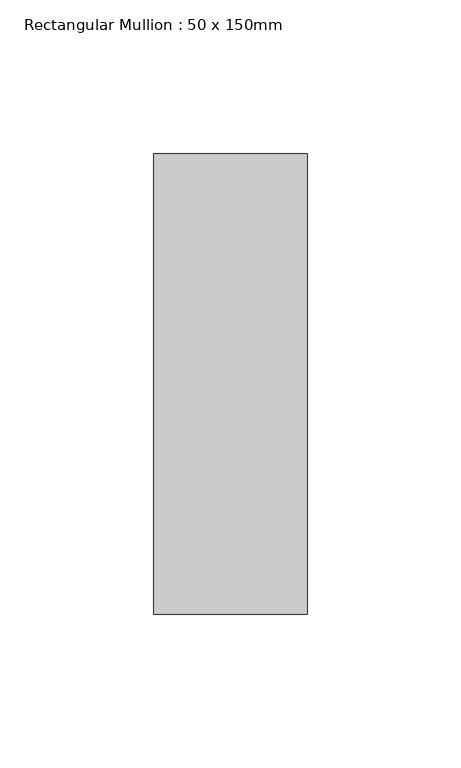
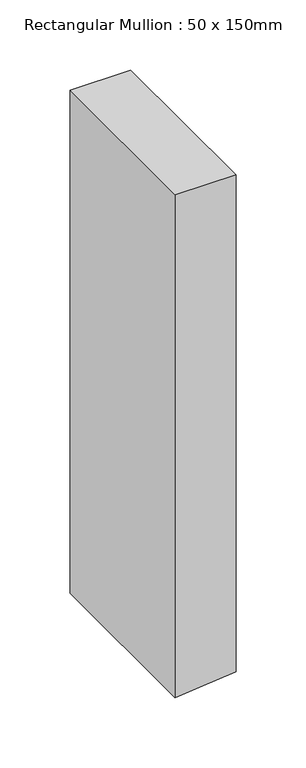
"""IFC4 building model written with IfcOpenShell, lengths in millimetres: member geometry, Rectangular Mullion : 50 x 150mm."""

from ifc_helpers import new_model, si_unit, frame, origin, place, context, project, spatial, polyline, outline, extrude, source, transform, mapped, element, save


def rectangular_mullion_50_x_150mm_2f033bd0(model_context):
    return source(origin(), model_context, "Body", "SweptSolid", [
        extrude(outline(polyline([(0.0, 25.0), (0.0, -25.0), (-437.732568, -25.0), (-435.7218009, -5.0022633), (-432.7050813, 25.0), (0.0, 25.0)])), frame((0.0, -75.0, 0.0), z_axis=(0.0, 1.0, 0.0), x_axis=(0.0, 0.0, 1.0)), (0.0, 0.0, 1.0), 150.0),
    ])


if __name__ == "__main__":
    model = new_model("IFC4")
    model_context = context("Model", 3, world=origin())
    ifc_project = project(units=[si_unit("LENGTHUNIT", "METRE", prefix="MILLI")], contexts=[model_context])
    site = spatial("IfcSite", under=ifc_project)
    building = spatial("IfcBuilding", under=site)
    placement = place(None, origin())
    rectangular_mullion_50_x_150mm_shape = rectangular_mullion_50_x_150mm_2f033bd0(model_context)
    element("IfcMember", 1, ObjectType="Rectangular Mullion : 50 x 150mm", at=placement, inside=building, context=model_context, shape_type="MappedRepresentation", body=[
        mapped(rectangular_mullion_50_x_150mm_shape, transform((0.0, 0.0, 0.0), x_axis=(1.0, 0.0, 0.0), y_axis=(0.0, 1.0, 0.0), z_axis=(0.0, 0.0, 1.0))),
    ])
    save(model, "model.ifc")
